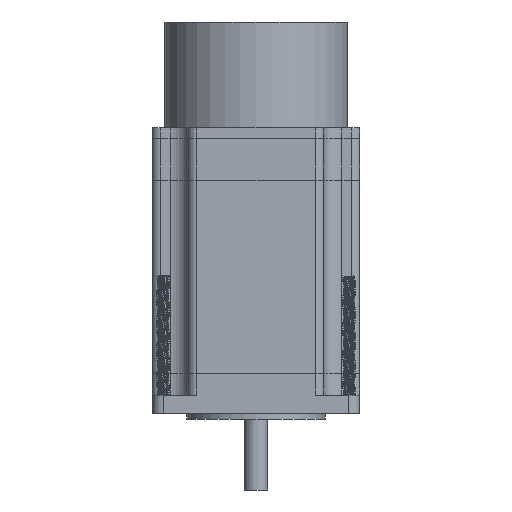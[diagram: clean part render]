
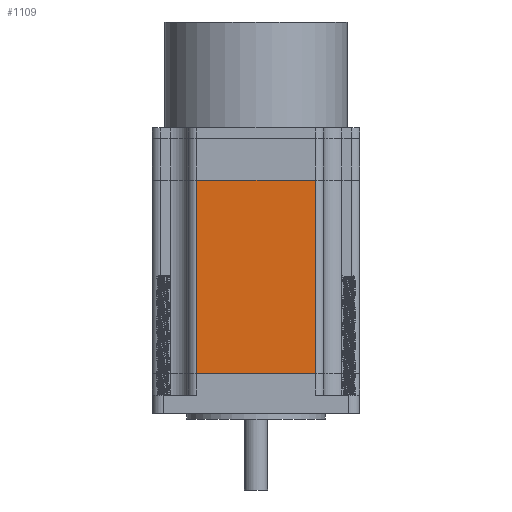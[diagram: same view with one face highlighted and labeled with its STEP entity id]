
A CAD part, front view. The second image highlights one B-rep face of the part: STEP entity #1109.
In plain terms, the highlighted planar face has unit normal (0, -1, 0).
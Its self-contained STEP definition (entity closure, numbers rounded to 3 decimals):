
#1024 = VECTOR ( 'NONE', #20873, 1000. ) ;
#1109 = ADVANCED_FACE ( 'NONE', ( #21274 ), #18823, .F. ) ;
#2223 = EDGE_CURVE ( 'NONE', #6645, #16227, #5498, .T. ) ;
#2234 = ORIENTED_EDGE ( 'NONE', *, *, #8131, .T. ) ;
#4144 = CARTESIAN_POINT ( 'NONE',  ( -16.27, -28.5, 0. ) ) ;
#4682 = CARTESIAN_POINT ( 'NONE',  ( -16.27, -28.5, 53. ) ) ;
#4822 = EDGE_CURVE ( 'NONE', #9600, #6645, #10735, .T. ) ;
#5498 = LINE ( 'NONE', #14155, #1024 ) ;
#6082 = EDGE_LOOP ( 'NONE', ( #2234, #11216, #11251, #20044 ) ) ;
#6645 = VERTEX_POINT ( 'NONE', #18546 ) ;
#6665 = LINE ( 'NONE', #11813, #19501 ) ;
#7997 = EDGE_CURVE ( 'NONE', #9600, #18227, #16636, .T. ) ;
#8131 = EDGE_CURVE ( 'NONE', #18227, #16227, #6665, .T. ) ;
#8526 = DIRECTION ( 'NONE',  ( 1., 0., 0. ) ) ;
#8807 = DIRECTION ( 'NONE',  ( 0., 1., 0. ) ) ;
#9600 = VERTEX_POINT ( 'NONE', #15581 ) ;
#10241 = VECTOR ( 'NONE', #18068, 1000. ) ;
#10735 = LINE ( 'NONE', #21367, #10241 ) ;
#11008 = CARTESIAN_POINT ( 'NONE',  ( 16.27, -28.5, 0. ) ) ;
#11216 = ORIENTED_EDGE ( 'NONE', *, *, #2223, .F. ) ;
#11251 = ORIENTED_EDGE ( 'NONE', *, *, #4822, .F. ) ;
#11641 = AXIS2_PLACEMENT_3D ( 'NONE', #13791, #8807, #20518 ) ;
#11813 = CARTESIAN_POINT ( 'NONE',  ( 0., -28.5, 0. ) ) ;
#12178 = VECTOR ( 'NONE', #21542, 1000. ) ;
#13791 = CARTESIAN_POINT ( 'NONE',  ( 0., -28.5, 53. ) ) ;
#14155 = CARTESIAN_POINT ( 'NONE',  ( 16.27, -28.5, 53. ) ) ;
#15581 = CARTESIAN_POINT ( 'NONE',  ( -16.27, -28.5, 53. ) ) ;
#16227 = VERTEX_POINT ( 'NONE', #11008 ) ;
#16636 = LINE ( 'NONE', #4682, #12178 ) ;
#18068 = DIRECTION ( 'NONE',  ( 1., 0., 0. ) ) ;
#18227 = VERTEX_POINT ( 'NONE', #4144 ) ;
#18546 = CARTESIAN_POINT ( 'NONE',  ( 16.27, -28.5, 53. ) ) ;
#18823 = PLANE ( 'NONE',  #11641 ) ;
#19501 = VECTOR ( 'NONE', #8526, 1000. ) ;
#20044 = ORIENTED_EDGE ( 'NONE', *, *, #7997, .T. ) ;
#20518 = DIRECTION ( 'NONE',  ( -1., 0., 0. ) ) ;
#20873 = DIRECTION ( 'NONE',  ( 0., 0., -1. ) ) ;
#21274 = FACE_OUTER_BOUND ( 'NONE', #6082, .T. ) ;
#21367 = CARTESIAN_POINT ( 'NONE',  ( 0., -28.5, 53. ) ) ;
#21542 = DIRECTION ( 'NONE',  ( 0., 0., -1. ) ) ;
